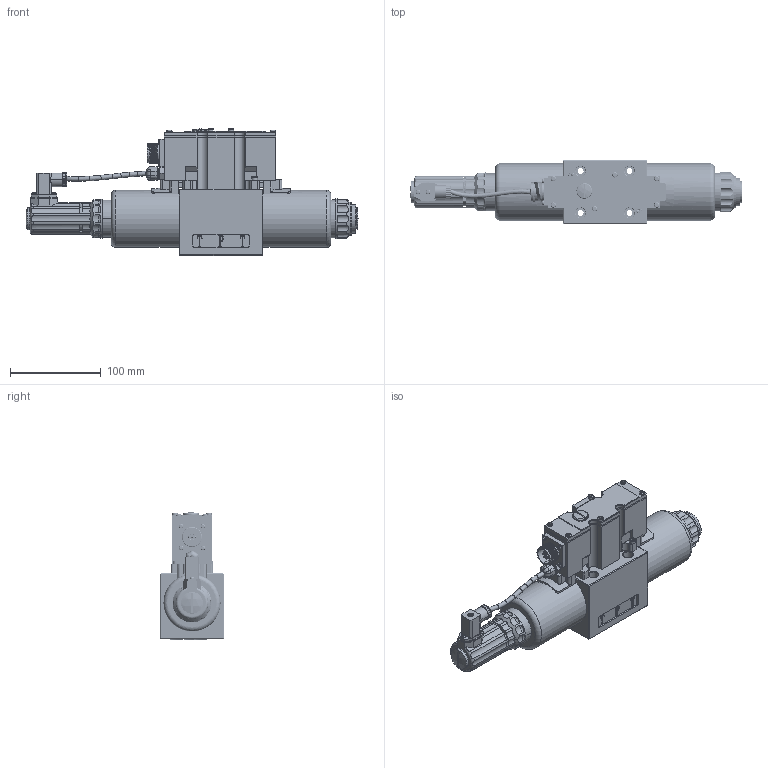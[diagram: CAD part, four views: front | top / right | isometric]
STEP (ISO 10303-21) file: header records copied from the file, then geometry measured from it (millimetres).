
FILE_DESCRIPTION(/* description */ (''),/* implementation_level */ '2;1');
FILE_NAME(/* name */ '4WREE10-2XJ比例换向阀.prt.stp',/* time_stamp */ '2022-03-30T18:36:48+08:00',/* author */ (''),/* organization */ (''),/* preprocessor_version */ 'ST-DEVELOPER v16.7',/* originating_system */ 'SIEMENS PLM Software NX 12.0',/* authorisation */ '');
FILE_SCHEMA (('AUTOMOTIVE_DESIGN { 1 0 10303 214 3 1 1 1 }'));
Products named in the file (1): 4WREE10-2XJ比例换向阀
Bounding box: 366.06 x 70 x 140.1 mm (x, y, z)
Volume: 1332511.9 mm3; surface area: 251469.2 mm2
Topology: 36 solids, 45 shells, 1706 faces, 4272 edges, 2708 vertices
Faces by surface type: plane 864, cylinder 544, bspline 111, torus 108, cone 57, sphere 17, extrusion 5
Full cylindrical faces by diameter (mm): 0.8 x1, 1.8 x4, 2 x1, 2.5 x4, 2.8 x26, 3.2 x56, 3.6 x10, 4 x4, 5 x5, 6 x2, 6.5 x2, 6.6 x4, 6.78 x2, 7 x4, 11 x4, 12.8 x1, 14.6 x1, 14.701 x3, 15.7 x5, 16 x1, 16.5 x2, 17 x2, 17.2 x1, 18.376 x3, 21 x2, 21.4 x2, 24 x3, 31 x2, 31.5 x3, 32 x2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
Entity records: 121092 total; most frequent: CARTESIAN_POINT 83017, ORIENTED_EDGE 7492, DIRECTION 7246, EDGE_CURVE 3746, AXIS2_PLACEMENT_3D 2587, VERTEX_POINT 2481, VECTOR 2072, LINE 2067
